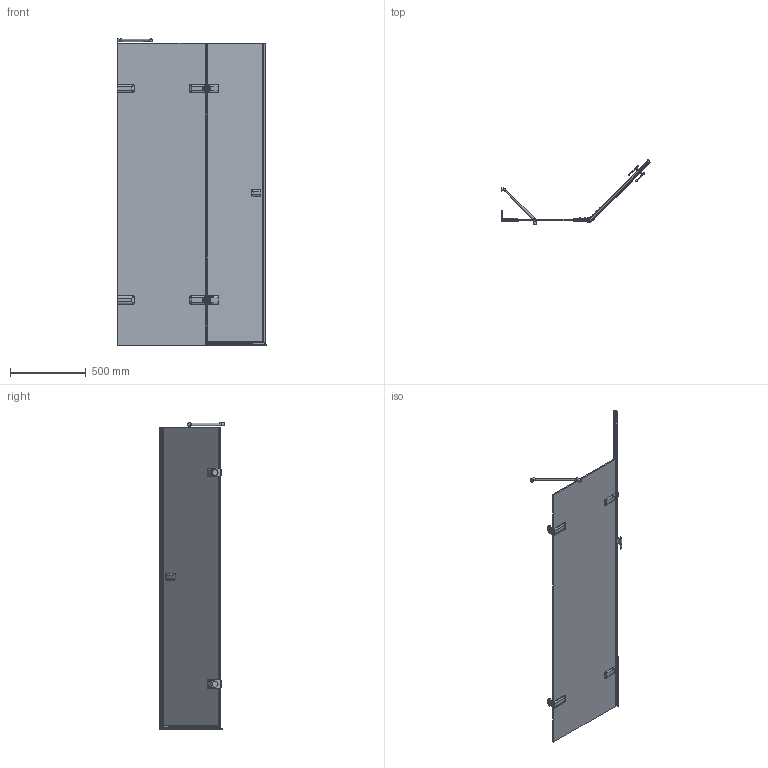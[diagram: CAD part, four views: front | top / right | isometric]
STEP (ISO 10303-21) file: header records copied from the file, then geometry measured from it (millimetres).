
FILE_DESCRIPTION(/* description */ (''),/* implementation_level */ '2;1');
FILE_NAME(/* name */ 'D:\13\Леонид\TREND DOOR GK-862AG135ONE-03\TREND DOOR GK-862AG135ONE-03 левая модель\TREND DOOR GK-862AG135ONE-03 ЛЕВАЯ-3D.stp',/* time_stamp */ '2022-01-19T13:15:28+03:00',/* author */ ('ChechurovS'),/* organization */ (''),/* preprocessor_version */ 'ST-DEVELOPER v15.2',/* originating_system */ 'Autodesk Inventor 2014',/* authorisation */ '');
FILE_SCHEMA (('AUTOMOTIVE_DESIGN { 1 0 10303 214 3 1 1 }'));
Products named in the file (1): TREND DOOR GK-862AG135ONE-03 ЛЕВАЯ-
3D
Bounding box: 988.71 x 434.51 x 2031.49 mm (x, y, z)
Volume: 17051047.6 mm3; surface area: 4976520.4 mm2
Topology: 6 solids, 6 shells, 1393 faces, 3766 edges, 2366 vertices
Faces by surface type: plane 815, cylinder 353, bspline 148, cone 34, torus 31, sphere 12
Full cylindrical faces by diameter (mm): 4 x5, 5 x6, 5.2 x2, 6 x4, 7.2 x4, 8 x2, 9 x8, 11 x2, 13 x2, 15 x1, 16 x2, 20 x2, 26 x1, 40 x2
Entity records: 62904 total; most frequent: CARTESIAN_POINT 27396, ORIENTED_EDGE 7244, DIRECTION 6801, EDGE_CURVE 3615, VERTEX_POINT 2337, AXIS2_PLACEMENT_3D 2304, LINE 2193, VECTOR 2193
